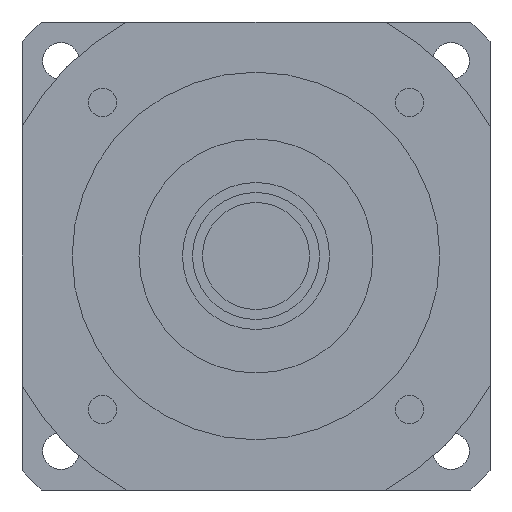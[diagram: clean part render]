
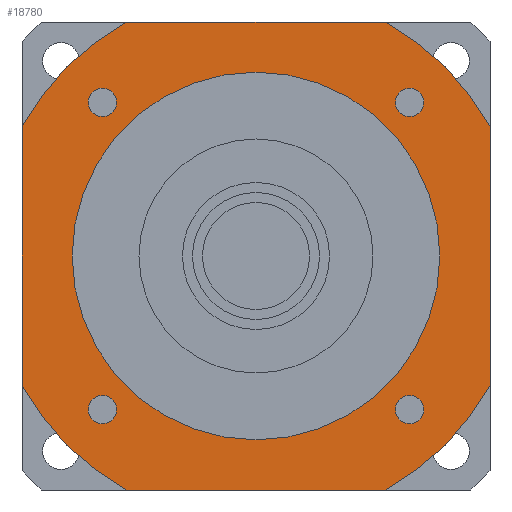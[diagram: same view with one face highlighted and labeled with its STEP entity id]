
A CAD part, left-side view. The second image highlights one B-rep face of the part: STEP entity #18780.
In plain terms, the highlighted planar face has unit normal (-1, 0, 0) as drawn and (0, 0, -1) by its records, which use the part's own axes.
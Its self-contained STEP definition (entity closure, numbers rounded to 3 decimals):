
#15970=CARTESIAN_POINT('',(-38.73,-70.,-84.7));
#15980=VERTEX_POINT('',#15970);
#16010=CARTESIAN_POINT('',(0.,0.,
-84.7));
#16020=DIRECTION('',(0.,0.,-1.));
#16030=DIRECTION('',(1.,0.,0.));
#16040=AXIS2_PLACEMENT_3D('',#16010,#16020,#16030);
#16050=CIRCLE('',#16040,80.);
#16060=CARTESIAN_POINT('',(-70.,-38.73,-84.7));
#16070=VERTEX_POINT('',#16060);
#16080=EDGE_CURVE('',#15980,#16070,#16050,.T.);
#16260=CARTESIAN_POINT('',(-70.,-70.,-84.7));
#16270=DIRECTION('',(0.,1.,0.));
#16280=VECTOR('',#16270,1000.);
#16290=LINE('',#16260,#16280);
#16300=CARTESIAN_POINT('',(-70.,38.73,-84.7));
#16310=VERTEX_POINT('',#16300);
#16320=EDGE_CURVE('',#16070,#16310,#16290,.T.);
#16530=CARTESIAN_POINT('',(70.,-38.73,-84.7));
#16540=VERTEX_POINT('',#16530);
#16570=CARTESIAN_POINT('',(0.,0.,
-84.7));
#16580=DIRECTION('',(0.,0.,-1.));
#16590=DIRECTION('',(1.,0.,0.));
#16600=AXIS2_PLACEMENT_3D('',#16570,#16580,#16590);
#16610=CIRCLE('',#16600,80.);
#16620=CARTESIAN_POINT('',(38.73,-70.,-84.7));
#16630=VERTEX_POINT('',#16620);
#16640=EDGE_CURVE('',#16540,#16630,#16610,.T.);
#16820=CARTESIAN_POINT('',(70.,-70.,-84.7));
#16830=DIRECTION('',(-1.,0.,0.));
#16840=VECTOR('',#16830,1000.);
#16850=LINE('',#16820,#16840);
#16860=EDGE_CURVE('',#16630,#15980,#16850,.T.);
#17020=CARTESIAN_POINT('',(-38.73,70.,-84.7));
#17030=VERTEX_POINT('',#17020);
#17060=CARTESIAN_POINT('',(-70.,70.,-84.7));
#17070=DIRECTION('',(1.,0.,0.));
#17080=VECTOR('',#17070,1000.);
#17090=LINE('',#17060,#17080);
#17100=CARTESIAN_POINT('',(38.73,70.,-84.7));
#17110=VERTEX_POINT('',#17100);
#17120=EDGE_CURVE('',#17030,#17110,#17090,.T.);
#17320=CARTESIAN_POINT('',(0.,0.,
-84.7));
#17330=DIRECTION('',(0.,0.,-1.));
#17340=DIRECTION('',(1.,0.,0.));
#17350=AXIS2_PLACEMENT_3D('',#17320,#17330,#17340);
#17360=CIRCLE('',#17350,80.);
#17370=EDGE_CURVE('',#16310,#17030,#17360,.T.);
#17480=CARTESIAN_POINT('',(0.,0.,
-84.7));
#17490=DIRECTION('',(0.,0.,-1.));
#17500=DIRECTION('',(1.,0.,0.));
#17510=AXIS2_PLACEMENT_3D('',#17480,#17490,#17500);
#17520=CIRCLE('',#17510,80.);
#17530=CARTESIAN_POINT('',(70.,38.73,-84.7));
#17540=VERTEX_POINT('',#17530);
#17550=EDGE_CURVE('',#17110,#17540,#17520,.T.);
#17730=CARTESIAN_POINT('',(70.,70.,-84.7));
#17740=DIRECTION('',(0.,-1.,0.));
#17750=VECTOR('',#17740,1000.);
#17760=LINE('',#17730,#17750);
#17770=EDGE_CURVE('',#17540,#16540,#17760,.T.);
#17840=CARTESIAN_POINT('',(70.,70.,-84.7));
#17850=DIRECTION('',(0.,0.,-1.));
#17860=DIRECTION('',(1.,0.,0.));
#17870=AXIS2_PLACEMENT_3D('',#17840,#17850,#17860);
#17880=PLANE('',#17870);
#17890=CARTESIAN_POINT('',(-45.962,-45.962,-84.7));
#17900=DIRECTION('',(0.,0.,-1.));
#17910=DIRECTION('',(0.,-1.,0.));
#17920=AXIS2_PLACEMENT_3D('',#17890,#17900,#17910);
#17930=CIRCLE('',#17920,4.25);
#17940=CARTESIAN_POINT('',(-45.962,-50.212,-84.7));
#17950=VERTEX_POINT('',#17940);
#17960=CARTESIAN_POINT('',(-45.962,-41.712,-84.7));
#17970=VERTEX_POINT('',#17960);
#17980=EDGE_CURVE('',#17950,#17970,#17930,.T.);
#17990=ORIENTED_EDGE('',*,*,#17980,.F.);
#18000=EDGE_CURVE('',#17970,#17950,#17930,.T.);
#18010=ORIENTED_EDGE('',*,*,#18000,.F.);
#18020=EDGE_LOOP('',(#18010,#17990));
#18030=FACE_BOUND('',#18020,.T.);
#18040=CARTESIAN_POINT('',(-45.962,45.962,-84.7));
#18050=DIRECTION('',(0.,0.,-1.));
#18060=DIRECTION('',(-1.,0.,0.));
#18070=AXIS2_PLACEMENT_3D('',#18040,#18050,#18060);
#18080=CIRCLE('',#18070,4.25);
#18090=CARTESIAN_POINT('',(-50.212,45.962,-84.7));
#18100=VERTEX_POINT('',#18090);
#18110=CARTESIAN_POINT('',(-41.712,45.962,-84.7));
#18120=VERTEX_POINT('',#18110);
#18130=EDGE_CURVE('',#18100,#18120,#18080,.T.);
#18140=ORIENTED_EDGE('',*,*,#18130,.F.);
#18150=EDGE_CURVE('',#18120,#18100,#18080,.T.);
#18160=ORIENTED_EDGE('',*,*,#18150,.F.);
#18170=EDGE_LOOP('',(#18160,#18140));
#18180=FACE_BOUND('',#18170,.T.);
#18190=CARTESIAN_POINT('',(45.962,45.962,-84.7));
#18200=DIRECTION('',(0.,0.,-1.));
#18210=DIRECTION('',(0.,1.,0.));
#18220=AXIS2_PLACEMENT_3D('',#18190,#18200,#18210);
#18230=CIRCLE('',#18220,4.25);
#18240=CARTESIAN_POINT('',(45.962,50.212,-84.7));
#18250=VERTEX_POINT('',#18240);
#18260=CARTESIAN_POINT('',(45.962,41.712,-84.7));
#18270=VERTEX_POINT('',#18260);
#18280=EDGE_CURVE('',#18250,#18270,#18230,.T.);
#18290=ORIENTED_EDGE('',*,*,#18280,.F.);
#18300=EDGE_CURVE('',#18270,#18250,#18230,.T.);
#18310=ORIENTED_EDGE('',*,*,#18300,.F.);
#18320=EDGE_LOOP('',(#18310,#18290));
#18330=FACE_BOUND('',#18320,.T.);
#18340=CARTESIAN_POINT('',(0.,0.,
-84.7));
#18350=DIRECTION('',(0.,0.,1.));
#18360=DIRECTION('',(0.,1.,0.));
#18370=AXIS2_PLACEMENT_3D('',#18340,#18350,#18360);
#18380=CIRCLE('',#18370,55.);
#18390=CARTESIAN_POINT('',(-55.,0.,-84.7));
#18400=VERTEX_POINT('',#18390);
#18410=CARTESIAN_POINT('',(55.,0.,-84.7));
#18420=VERTEX_POINT('',#18410);
#18430=EDGE_CURVE('',#18400,#18420,#18380,.T.);
#18440=ORIENTED_EDGE('',*,*,#18430,.T.);
#18450=CARTESIAN_POINT('',(0.,55.,-84.7));
#18460=VERTEX_POINT('',#18450);
#18470=EDGE_CURVE('',#18460,#18400,#18380,.T.);
#18480=ORIENTED_EDGE('',*,*,#18470,.T.);
#18490=EDGE_CURVE('',#18420,#18460,#18380,.T.);
#18500=ORIENTED_EDGE('',*,*,#18490,.T.);
#18510=EDGE_LOOP('',(#18500,#18480,#18440));
#18520=FACE_BOUND('',#18510,.T.);
#18530=ORIENTED_EDGE('',*,*,#17120,.T.);
#18540=ORIENTED_EDGE('',*,*,#17370,.T.);
#18550=ORIENTED_EDGE('',*,*,#16320,.T.);
#18560=ORIENTED_EDGE('',*,*,#16080,.T.);
#18570=ORIENTED_EDGE('',*,*,#16860,.T.);
#18580=ORIENTED_EDGE('',*,*,#16640,.T.);
#18590=ORIENTED_EDGE('',*,*,#17770,.T.);
#18600=ORIENTED_EDGE('',*,*,#17550,.T.);
#18610=EDGE_LOOP('',(#18600,#18590,#18580,#18570,#18560,#18550,#18540,
#18530));
#18620=FACE_OUTER_BOUND('',#18610,.T.);
#18630=CARTESIAN_POINT('',(45.962,-45.962,-84.7));
#18640=DIRECTION('',(0.,0.,-1.));
#18650=DIRECTION('',(1.,0.,0.));
#18660=AXIS2_PLACEMENT_3D('',#18630,#18640,#18650);
#18670=CIRCLE('',#18660,4.25);
#18680=CARTESIAN_POINT('',(50.212,-45.962,-84.7));
#18690=VERTEX_POINT('',#18680);
#18700=CARTESIAN_POINT('',(41.712,-45.962,-84.7));
#18710=VERTEX_POINT('',#18700);
#18720=EDGE_CURVE('',#18690,#18710,#18670,.T.);
#18730=ORIENTED_EDGE('',*,*,#18720,.F.);
#18740=EDGE_CURVE('',#18710,#18690,#18670,.T.);
#18750=ORIENTED_EDGE('',*,*,#18740,.F.);
#18760=EDGE_LOOP('',(#18750,#18730));
#18770=FACE_BOUND('',#18760,.T.);
#18780=ADVANCED_FACE('',(#18030,#18180,#18330,#18520,#18620,#18770),
#17880,.T.);
